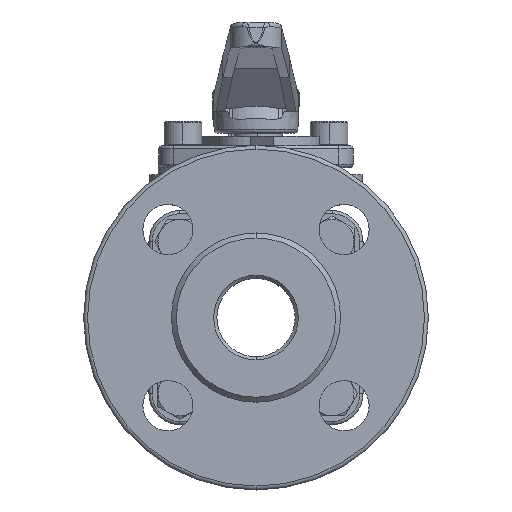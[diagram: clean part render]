
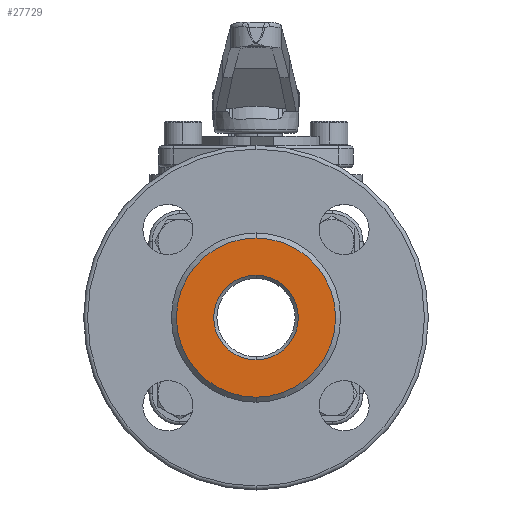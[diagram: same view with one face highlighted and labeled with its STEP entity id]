
A CAD part, left-side view. The second image highlights one B-rep face of the part: STEP entity #27729.
In plain terms, the highlighted planar face has unit normal (-1, 0, 0).
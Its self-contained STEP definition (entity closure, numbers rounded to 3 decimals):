
#23499 = VERTEX_POINT('',#23500);
#23500 = CARTESIAN_POINT('',(-70.093,24.335,5.5));
#23507 = CONICAL_SURFACE('',#23508,12.5,0.785);
#23508 = AXIS2_PLACEMENT_3D('',#23509,#23510,#23511);
#23509 = CARTESIAN_POINT('',(-69.093,24.335,-8.));
#23510 = DIRECTION('',(-1.,0.,0.));
#23511 = DIRECTION('',(0.,0.,1.));
#23519 = CONICAL_SURFACE('',#23520,12.5,0.785);
#23520 = AXIS2_PLACEMENT_3D('',#23521,#23522,#23523);
#23521 = CARTESIAN_POINT('',(-69.093,24.335,-8.));
#23522 = DIRECTION('',(-1.,0.,0.));
#23523 = DIRECTION('',(0.,0.,1.));
#23531 = EDGE_CURVE('',#23499,#23532,#23534,.T.);
#23532 = VERTEX_POINT('',#23533);
#23533 = CARTESIAN_POINT('',(-70.093,24.335,-21.5));
#23534 = SURFACE_CURVE('',#23535,(#23540,#23547),.PCURVE_S1.);
#23535 = CIRCLE('',#23536,13.5);
#23536 = AXIS2_PLACEMENT_3D('',#23537,#23538,#23539);
#23537 = CARTESIAN_POINT('',(-70.093,24.335,-8.));
#23538 = DIRECTION('',(1.,0.,0.));
#23539 = DIRECTION('',(0.,1.,0.));
#23540 = PCURVE('',#23507,#23541);
#23541 = DEFINITIONAL_REPRESENTATION('',(#23542),#23546);
#23542 = LINE('',#23543,#23544);
#23543 = CARTESIAN_POINT('',(7.854,1.));
#23544 = VECTOR('',#23545,1.);
#23545 = DIRECTION('',(-1.,0.));
#23546 = ( GEOMETRIC_REPRESENTATION_CONTEXT(2) 
PARAMETRIC_REPRESENTATION_CONTEXT() REPRESENTATION_CONTEXT('2D SPACE',''
  ) );
#23547 = PCURVE('',#23548,#23553);
#23548 = PLANE('',#23549);
#23549 = AXIS2_PLACEMENT_3D('',#23550,#23551,#23552);
#23550 = CARTESIAN_POINT('',(-70.093,54.235,
    -242.46));
#23551 = DIRECTION('',(-1.,0.,0.));
#23552 = DIRECTION('',(0.,1.,0.));
#23553 = DEFINITIONAL_REPRESENTATION('',(#23554),#23562);
#23554 = ( BOUNDED_CURVE() B_SPLINE_CURVE(2,(#23555,#23556,#23557,#23558
    ,#23559,#23560,#23561),.UNSPECIFIED.,.T.,.F.) 
B_SPLINE_CURVE_WITH_KNOTS((1,2,2,2,2,1),(-2.094,0.,
    2.094,4.189,6.283,8.378),
.UNSPECIFIED.) CURVE() GEOMETRIC_REPRESENTATION_ITEM() 
RATIONAL_B_SPLINE_CURVE((1.,0.5,1.,0.5,1.,0.5,1.)) REPRESENTATION_ITEM(
  '') );
#23555 = CARTESIAN_POINT('',(-16.4,-234.46));
#23556 = CARTESIAN_POINT('',(-16.4,-257.843));
#23557 = CARTESIAN_POINT('',(-36.65,-246.152));
#23558 = CARTESIAN_POINT('',(-56.9,-234.46));
#23559 = CARTESIAN_POINT('',(-36.65,-222.769));
#23560 = CARTESIAN_POINT('',(-16.4,-211.078));
#23561 = CARTESIAN_POINT('',(-16.4,-234.46));
#23562 = ( GEOMETRIC_REPRESENTATION_CONTEXT(2) 
PARAMETRIC_REPRESENTATION_CONTEXT() REPRESENTATION_CONTEXT('2D SPACE',''
  ) );
#25672 = EDGE_CURVE('',#25673,#25675,#25677,.T.);
#25673 = VERTEX_POINT('',#25674);
#25674 = CARTESIAN_POINT('',(-70.093,24.335,17.4));
#25675 = VERTEX_POINT('',#25676);
#25676 = CARTESIAN_POINT('',(-70.093,24.335,-33.4));
#25677 = SURFACE_CURVE('',#25678,(#25683,#25695),.PCURVE_S1.);
#25678 = CIRCLE('',#25679,25.4);
#25679 = AXIS2_PLACEMENT_3D('',#25680,#25681,#25682);
#25680 = CARTESIAN_POINT('',(-70.093,24.335,-8.));
#25681 = DIRECTION('',(-1.,0.,0.));
#25682 = DIRECTION('',(0.,1.,0.));
#25683 = PCURVE('',#25684,#25689);
#25684 = CONICAL_SURFACE('',#25685,24.9,0.785);
#25685 = AXIS2_PLACEMENT_3D('',#25686,#25687,#25688);
#25686 = CARTESIAN_POINT('',(-70.593,24.335,-8.));
#25687 = DIRECTION('',(1.,0.,0.));
#25688 = DIRECTION('',(0.,0.,-1.));
#25689 = DEFINITIONAL_REPRESENTATION('',(#25690),#25694);
#25690 = LINE('',#25691,#25692);
#25691 = CARTESIAN_POINT('',(7.854,0.5));
#25692 = VECTOR('',#25693,1.);
#25693 = DIRECTION('',(-1.,0.));
#25694 = ( GEOMETRIC_REPRESENTATION_CONTEXT(2) 
PARAMETRIC_REPRESENTATION_CONTEXT() REPRESENTATION_CONTEXT('2D SPACE',''
  ) );
#25695 = PCURVE('',#23548,#25696);
#25696 = DEFINITIONAL_REPRESENTATION('',(#25697),#25701);
#25697 = CIRCLE('',#25698,25.4);
#25698 = AXIS2_PLACEMENT_2D('',#25699,#25700);
#25699 = CARTESIAN_POINT('',(-29.9,-234.46));
#25700 = DIRECTION('',(1.,0.));
#25701 = ( GEOMETRIC_REPRESENTATION_CONTEXT(2) 
PARAMETRIC_REPRESENTATION_CONTEXT() REPRESENTATION_CONTEXT('2D SPACE',''
  ) );
#25719 = CONICAL_SURFACE('',#25720,24.9,0.785);
#25720 = AXIS2_PLACEMENT_3D('',#25721,#25722,#25723);
#25721 = CARTESIAN_POINT('',(-70.593,24.335,-8.));
#25722 = DIRECTION('',(1.,0.,0.));
#25723 = DIRECTION('',(0.,0.,-1.));
#25991 = EDGE_CURVE('',#25675,#25673,#25992,.T.);
#25992 = SURFACE_CURVE('',#25993,(#25998,#26005),.PCURVE_S1.);
#25993 = CIRCLE('',#25994,25.4);
#25994 = AXIS2_PLACEMENT_3D('',#25995,#25996,#25997);
#25995 = CARTESIAN_POINT('',(-70.093,24.335,-8.));
#25996 = DIRECTION('',(-1.,0.,0.));
#25997 = DIRECTION('',(0.,1.,0.));
#25998 = PCURVE('',#25719,#25999);
#25999 = DEFINITIONAL_REPRESENTATION('',(#26000),#26004);
#26000 = LINE('',#26001,#26002);
#26001 = CARTESIAN_POINT('',(7.854,0.5));
#26002 = VECTOR('',#26003,1.);
#26003 = DIRECTION('',(-1.,0.));
#26004 = ( GEOMETRIC_REPRESENTATION_CONTEXT(2) 
PARAMETRIC_REPRESENTATION_CONTEXT() REPRESENTATION_CONTEXT('2D SPACE',''
  ) );
#26005 = PCURVE('',#23548,#26006);
#26006 = DEFINITIONAL_REPRESENTATION('',(#26007),#26011);
#26007 = CIRCLE('',#26008,25.4);
#26008 = AXIS2_PLACEMENT_2D('',#26009,#26010);
#26009 = CARTESIAN_POINT('',(-29.9,-234.46));
#26010 = DIRECTION('',(1.,0.));
#26011 = ( GEOMETRIC_REPRESENTATION_CONTEXT(2) 
PARAMETRIC_REPRESENTATION_CONTEXT() REPRESENTATION_CONTEXT('2D SPACE',''
  ) );
#27729 = ADVANCED_FACE('',(#27730,#27759),#23548,.T.);
#27730 = FACE_BOUND('',#27731,.T.);
#27731 = EDGE_LOOP('',(#27732,#27733));
#27732 = ORIENTED_EDGE('',*,*,#23531,.T.);
#27733 = ORIENTED_EDGE('',*,*,#27734,.T.);
#27734 = EDGE_CURVE('',#23532,#23499,#27735,.T.);
#27735 = SURFACE_CURVE('',#27736,(#27741,#27752),.PCURVE_S1.);
#27736 = CIRCLE('',#27737,13.5);
#27737 = AXIS2_PLACEMENT_3D('',#27738,#27739,#27740);
#27738 = CARTESIAN_POINT('',(-70.093,24.335,-8.));
#27739 = DIRECTION('',(1.,0.,0.));
#27740 = DIRECTION('',(0.,1.,0.));
#27741 = PCURVE('',#23548,#27742);
#27742 = DEFINITIONAL_REPRESENTATION('',(#27743),#27751);
#27743 = ( BOUNDED_CURVE() B_SPLINE_CURVE(2,(#27744,#27745,#27746,#27747
    ,#27748,#27749,#27750),.UNSPECIFIED.,.T.,.F.) 
B_SPLINE_CURVE_WITH_KNOTS((1,2,2,2,2,1),(-2.094,0.,
    2.094,4.189,6.283,8.378),
.UNSPECIFIED.) CURVE() GEOMETRIC_REPRESENTATION_ITEM() 
RATIONAL_B_SPLINE_CURVE((1.,0.5,1.,0.5,1.,0.5,1.)) REPRESENTATION_ITEM(
  '') );
#27744 = CARTESIAN_POINT('',(-16.4,-234.46));
#27745 = CARTESIAN_POINT('',(-16.4,-257.843));
#27746 = CARTESIAN_POINT('',(-36.65,-246.152));
#27747 = CARTESIAN_POINT('',(-56.9,-234.46));
#27748 = CARTESIAN_POINT('',(-36.65,-222.769));
#27749 = CARTESIAN_POINT('',(-16.4,-211.078));
#27750 = CARTESIAN_POINT('',(-16.4,-234.46));
#27751 = ( GEOMETRIC_REPRESENTATION_CONTEXT(2) 
PARAMETRIC_REPRESENTATION_CONTEXT() REPRESENTATION_CONTEXT('2D SPACE',''
  ) );
#27752 = PCURVE('',#23519,#27753);
#27753 = DEFINITIONAL_REPRESENTATION('',(#27754),#27758);
#27754 = LINE('',#27755,#27756);
#27755 = CARTESIAN_POINT('',(7.854,1.));
#27756 = VECTOR('',#27757,1.);
#27757 = DIRECTION('',(-1.,0.));
#27758 = ( GEOMETRIC_REPRESENTATION_CONTEXT(2) 
PARAMETRIC_REPRESENTATION_CONTEXT() REPRESENTATION_CONTEXT('2D SPACE',''
  ) );
#27759 = FACE_BOUND('',#27760,.T.);
#27760 = EDGE_LOOP('',(#27761,#27762));
#27761 = ORIENTED_EDGE('',*,*,#25991,.T.);
#27762 = ORIENTED_EDGE('',*,*,#25672,.T.);
